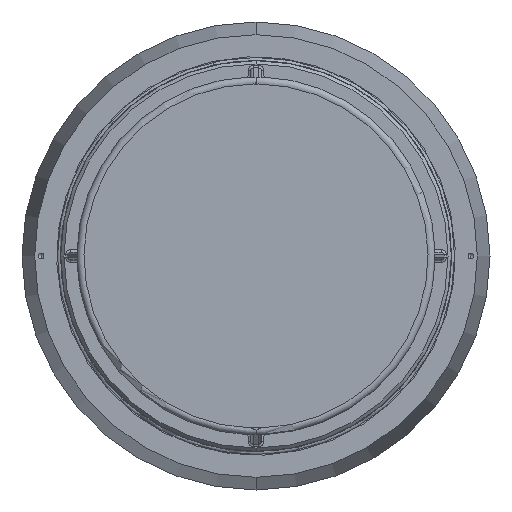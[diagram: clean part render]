
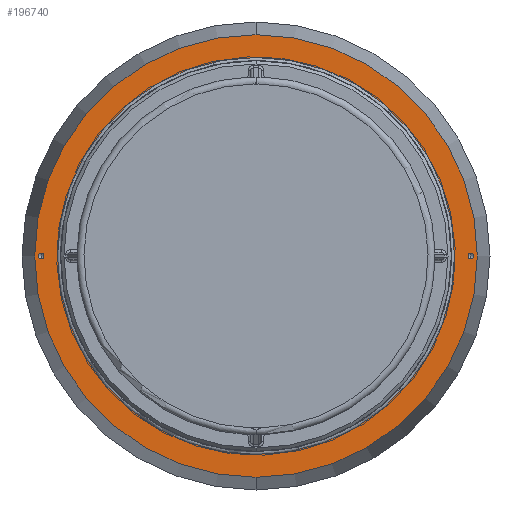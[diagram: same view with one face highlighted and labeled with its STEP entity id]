
A CAD part, front view. The second image highlights one B-rep face of the part: STEP entity #196740.
In plain terms, the highlighted planar face has unit normal (0, -1, 0).
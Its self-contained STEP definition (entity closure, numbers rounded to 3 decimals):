
#2143 = CARTESIAN_POINT ( 'NONE',  ( 330., -724.968, 4.25 ) ) ;
#2373 = VERTEX_POINT ( 'NONE', #280407 ) ;
#2684 = EDGE_LOOP ( 'NONE', ( #351287, #84155 ) ) ;
#3614 = DIRECTION ( 'NONE',  ( 0., -1., 0. ) ) ;
#6984 = DIRECTION ( 'NONE',  ( 0., -1., 0. ) ) ;
#18494 = CIRCLE ( 'NONE', #35682, 4.25 ) ;
#18848 = ORIENTED_EDGE ( 'NONE', *, *, #90828, .T. ) ;
#20192 = DIRECTION ( 'NONE',  ( 0., -1., 0. ) ) ;
#24071 = EDGE_CURVE ( 'NONE', #355503, #125469, #30686, .T. ) ;
#28144 = DIRECTION ( 'NONE',  ( 0., -1., 0. ) ) ;
#30686 = CIRCLE ( 'NONE', #448078, 4.25 ) ;
#32550 = FACE_BOUND ( 'NONE', #286135, .T. ) ;
#35682 = AXIS2_PLACEMENT_3D ( 'NONE', #228428, #6984, #265676 ) ;
#40929 = ORIENTED_EDGE ( 'NONE', *, *, #254862, .F. ) ;
#50759 = CARTESIAN_POINT ( 'NONE',  ( 0., -724.968, -340. ) ) ;
#76754 = EDGE_LOOP ( 'NONE', ( #168583, #40929 ) ) ;
#79553 = CIRCLE ( 'NONE', #429331, 340. ) ;
#84155 = ORIENTED_EDGE ( 'NONE', *, *, #329007, .F. ) ;
#90828 = EDGE_CURVE ( 'NONE', #184418, #93446, #79553, .T. ) ;
#93446 = VERTEX_POINT ( 'NONE', #202612 ) ;
#98541 = DIRECTION ( 'NONE',  ( 0., -1., 0. ) ) ;
#101506 = ORIENTED_EDGE ( 'NONE', *, *, #324106, .F. ) ;
#119293 = FACE_BOUND ( 'NONE', #2684, .T. ) ;
#125469 = VERTEX_POINT ( 'NONE', #373417 ) ;
#130723 = CARTESIAN_POINT ( 'NONE',  ( 0., -724.968, -305. ) ) ;
#130864 = FACE_BOUND ( 'NONE', #76754, .T. ) ;
#135640 = EDGE_CURVE ( 'NONE', #191268, #2373, #465192, .T. ) ;
#136558 = PLANE ( 'NONE',  #161772 ) ;
#138153 = CARTESIAN_POINT ( 'NONE',  ( 305., -724.968, 0. ) ) ;
#159602 = DIRECTION ( 'NONE',  ( 0., -1., 0. ) ) ;
#161772 = AXIS2_PLACEMENT_3D ( 'NONE', #138153, #396642, #175403 ) ;
#165741 = FACE_OUTER_BOUND ( 'NONE', #374004, .T. ) ;
#168583 = ORIENTED_EDGE ( 'NONE', *, *, #24071, .F. ) ;
#175403 = DIRECTION ( 'NONE',  ( 0., 0., -1. ) ) ;
#181494 = AXIS2_PLACEMENT_3D ( 'NONE', #208210, #466521, #245461 ) ;
#183080 = ORIENTED_EDGE ( 'NONE', *, *, #135640, .F. ) ;
#184418 = VERTEX_POINT ( 'NONE', #50759 ) ;
#191268 = VERTEX_POINT ( 'NONE', #2143 ) ;
#193873 = DIRECTION ( 'NONE',  ( 0., -1., 0. ) ) ;
#196740 = ADVANCED_FACE ( 'NONE', ( #32550, #130864, #165741, #119293 ), #136558, .T. ) ;
#202612 = CARTESIAN_POINT ( 'NONE',  ( 0., -724.968, 340. ) ) ;
#203869 = VERTEX_POINT ( 'NONE', #252857 ) ;
#208210 = CARTESIAN_POINT ( 'NONE',  ( 0., -724.968, 0. ) ) ;
#213315 = CARTESIAN_POINT ( 'NONE',  ( -330., -724.968, -4.25 ) ) ;
#225051 = CARTESIAN_POINT ( 'NONE',  ( 0., -724.968, 0. ) ) ;
#227085 = AXIS2_PLACEMENT_3D ( 'NONE', #319906, #98541, #357062 ) ;
#228428 = CARTESIAN_POINT ( 'NONE',  ( -330., -724.968, 0. ) ) ;
#241738 = CARTESIAN_POINT ( 'NONE',  ( -330., -724.968, 0. ) ) ;
#245461 = DIRECTION ( 'NONE',  ( 0., 0., -1. ) ) ;
#249653 = CARTESIAN_POINT ( 'NONE',  ( 330., -724.968, 0. ) ) ;
#251829 = VERTEX_POINT ( 'NONE', #130723 ) ;
#252857 = CARTESIAN_POINT ( 'NONE',  ( 0., -724.968, 305. ) ) ;
#254862 = EDGE_CURVE ( 'NONE', #125469, #355503, #18494, .T. ) ;
#257941 = AXIS2_PLACEMENT_3D ( 'NONE', #225051, #3614, #262288 ) ;
#262288 = DIRECTION ( 'NONE',  ( 0., 0., -1. ) ) ;
#265676 = DIRECTION ( 'NONE',  ( 0., 0., -1. ) ) ;
#278892 = DIRECTION ( 'NONE',  ( 0., 0., -1. ) ) ;
#280407 = CARTESIAN_POINT ( 'NONE',  ( 330., -724.968, -4.25 ) ) ;
#286135 = EDGE_LOOP ( 'NONE', ( #101506, #183080 ) ) ;
#286780 = DIRECTION ( 'NONE',  ( 0., 0., -1. ) ) ;
#305863 = CIRCLE ( 'NONE', #418095, 340. ) ;
#319906 = CARTESIAN_POINT ( 'NONE',  ( 330., -724.968, 0. ) ) ;
#324106 = EDGE_CURVE ( 'NONE', #2373, #191268, #441815, .T. ) ;
#329007 = EDGE_CURVE ( 'NONE', #203869, #251829, #388158, .T. ) ;
#347773 = EDGE_CURVE ( 'NONE', #251829, #203869, #470796, .T. ) ;
#351287 = ORIENTED_EDGE ( 'NONE', *, *, #347773, .F. ) ;
#355503 = VERTEX_POINT ( 'NONE', #213315 ) ;
#357062 = DIRECTION ( 'NONE',  ( 0., 0., -1. ) ) ;
#373417 = CARTESIAN_POINT ( 'NONE',  ( -330., -724.968, 4.25 ) ) ;
#374004 = EDGE_LOOP ( 'NONE', ( #18848, #379464 ) ) ;
#379464 = ORIENTED_EDGE ( 'NONE', *, *, #387103, .T. ) ;
#380911 = CARTESIAN_POINT ( 'NONE',  ( 0., -724.968, 0. ) ) ;
#387103 = EDGE_CURVE ( 'NONE', #93446, #184418, #305863, .T. ) ;
#388158 = CIRCLE ( 'NONE', #181494, 305. ) ;
#396642 = DIRECTION ( 'NONE',  ( 0., -1., 0. ) ) ;
#415139 = CARTESIAN_POINT ( 'NONE',  ( 0., -724.968, 0. ) ) ;
#418004 = DIRECTION ( 'NONE',  ( 0., 0., -1. ) ) ;
#418095 = AXIS2_PLACEMENT_3D ( 'NONE', #415139, #193873, #452258 ) ;
#429331 = AXIS2_PLACEMENT_3D ( 'NONE', #380911, #159602, #418004 ) ;
#441815 = CIRCLE ( 'NONE', #443951, 4.25 ) ;
#443951 = AXIS2_PLACEMENT_3D ( 'NONE', #249653, #28144, #286780 ) ;
#448078 = AXIS2_PLACEMENT_3D ( 'NONE', #241738, #20192, #278892 ) ;
#452258 = DIRECTION ( 'NONE',  ( 0., 0., -1. ) ) ;
#465192 = CIRCLE ( 'NONE', #227085, 4.25 ) ;
#466521 = DIRECTION ( 'NONE',  ( 0., -1., 0. ) ) ;
#470796 = CIRCLE ( 'NONE', #257941, 305. ) ;
